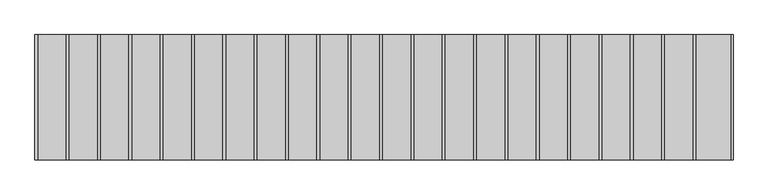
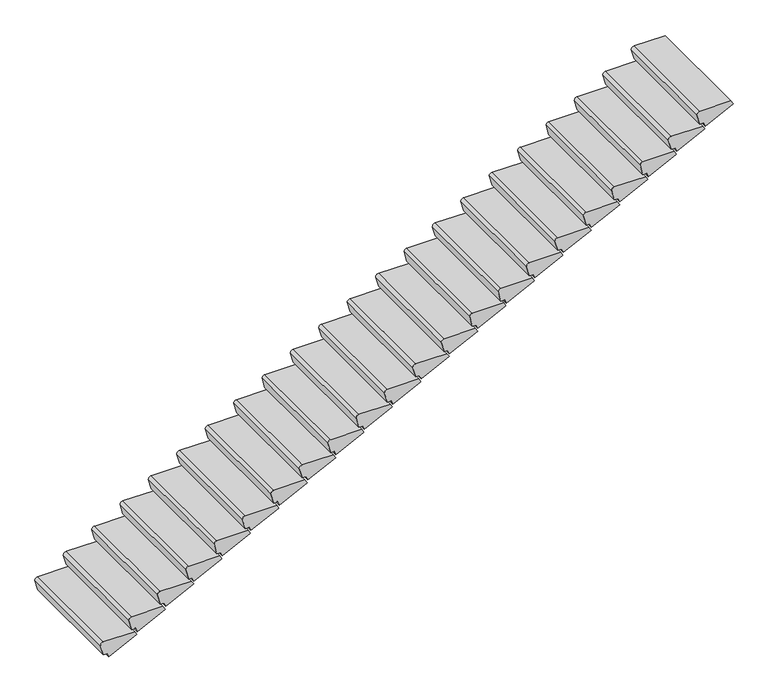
"""IFC4 building model written with IfcOpenShell, lengths in millimetres: stair flight geometry, АР_ГОСТ 8717.1-84_ЛС15."""

from ifc_helpers import new_model, si_unit, point, frame, frame_2d, origin, place, context, project, spatial, polyline, circle_curve, trimmed, segment, composite_curve, outline, extrude, source, transform, mapped, element, save


def stair_flight_9368ac00(model_context):
    return source(origin(), model_context, "Body", "SweptSolid", [
        extrude(outline(composite_curve([segment(polyline([(32.2727273, -20856.3232804), (32.2727273, -20816.3232804), (-9.7272727, -20799.3232804), (137.2727273, -20503.3216618), (177.2727273, -20526.3216618), (177.2727273, -20856.3232804)]), True, "CONTINUOUS"), segment(trimmed(circle_curve(frame_2d((147.2727273, -20856.3232804)), 30.0), [point((177.2727273, -20856.3232804))], [point((147.2727273, -20886.3232804))], False, "CARTESIAN"), True, "CONTINUOUS"), segment(polyline([(147.2727273, -20886.3232804), (32.2727273, -20856.3232804)]), True, "CONTINUOUS")], self_intersect=False)), frame((0.0, -7167.2365794, 0.0), z_axis=(0.0, 1.0, 0.0), x_axis=(0.0, 0.0, 1.0)), (0.0, 0.0, 1.0), 1200.0),
        extrude(outline(composite_curve([segment(polyline([(209.5454545, -20556.3232804), (209.5454545, -20516.3232804), (167.5454545, -20499.3232804), (314.5454545, -20203.3216618), (354.5454545, -20226.3216618), (354.5454545, -20556.3232804)]), True, "CONTINUOUS"), segment(trimmed(circle_curve(frame_2d((324.5454545, -20556.3232804)), 30.0), [point((354.5454545, -20556.3232804))], [point((324.5454545, -20586.3232804))], False, "CARTESIAN"), True, "CONTINUOUS"), segment(polyline([(324.5454545, -20586.3232804), (209.5454545, -20556.3232804)]), True, "CONTINUOUS")], self_intersect=False)), frame((0.0, -7167.2365794, 0.0), z_axis=(0.0, 1.0, 0.0), x_axis=(0.0, 0.0, 1.0)), (0.0, 0.0, 1.0), 1200.0),
        extrude(outline(composite_curve([segment(polyline([(386.8181818, -20256.3232804), (386.8181818, -20216.3232804), (344.8181818, -20199.3232804), (491.8181818, -19903.3216618), (531.8181818, -19926.3216618), (531.8181818, -20256.3232804)]), True, "CONTINUOUS"), segment(trimmed(circle_curve(frame_2d((501.8181818, -20256.3232804)), 30.0), [point((531.8181818, -20256.3232804))], [point((501.8181818, -20286.3232804))], False, "CARTESIAN"), True, "CONTINUOUS"), segment(polyline([(501.8181818, -20286.3232804), (386.8181818, -20256.3232804)]), True, "CONTINUOUS")], self_intersect=False)), frame((0.0, -7167.2365794, 0.0), z_axis=(0.0, 1.0, 0.0), x_axis=(0.0, 0.0, 1.0)), (0.0, 0.0, 1.0), 1200.0),
        extrude(outline(composite_curve([segment(polyline([(564.0909091, -19956.3232804), (564.0909091, -19916.3232804), (522.0909091, -19899.3232804), (669.0909091, -19603.3216618), (709.0909091, -19626.3216618), (709.0909091, -19956.3232804)]), True, "CONTINUOUS"), segment(trimmed(circle_curve(frame_2d((679.0909091, -19956.3232804)), 30.0), [point((709.0909091, -19956.3232804))], [point((679.0909091, -19986.3232804))], False, "CARTESIAN"), True, "CONTINUOUS"), segment(polyline([(679.0909091, -19986.3232804), (564.0909091, -19956.3232804)]), True, "CONTINUOUS")], self_intersect=False)), frame((0.0, -7167.2365794, 0.0), z_axis=(0.0, 1.0, 0.0), x_axis=(0.0, 0.0, 1.0)), (0.0, 0.0, 1.0), 1200.0),
        extrude(outline(composite_curve([segment(polyline([(741.3636364, -19656.3232804), (741.3636364, -19616.3232804), (699.3636364, -19599.3232804), (846.3636364, -19303.3216618), (886.3636364, -19326.3216618), (886.3636364, -19656.3232804)]), True, "CONTINUOUS"), segment(trimmed(circle_curve(frame_2d((856.3636364, -19656.3232804)), 30.0), [point((886.3636364, -19656.3232804))], [point((856.3636364, -19686.3232804))], False, "CARTESIAN"), True, "CONTINUOUS"), segment(polyline([(856.3636364, -19686.3232804), (741.3636364, -19656.3232804)]), True, "CONTINUOUS")], self_intersect=False)), frame((0.0, -7167.2365794, 0.0), z_axis=(0.0, 1.0, 0.0), x_axis=(0.0, 0.0, 1.0)), (0.0, 0.0, 1.0), 1200.0),
        extrude(outline(composite_curve([segment(polyline([(918.6363636, -19356.3232804), (918.6363636, -19316.3232804), (876.6363636, -19299.3232804), (1023.6363636, -19003.3216618), (1063.6363636, -19026.3216618), (1063.6363636, -19356.3232804)]), True, "CONTINUOUS"), segment(trimmed(circle_curve(frame_2d((1033.6363636, -19356.3232804)), 30.0), [point((1063.6363636, -19356.3232804))], [point((1033.6363636, -19386.3232804))], False, "CARTESIAN"), True, "CONTINUOUS"), segment(polyline([(1033.6363636, -19386.3232804), (918.6363636, -19356.3232804)]), True, "CONTINUOUS")], self_intersect=False)), frame((0.0, -7167.2365794, 0.0), z_axis=(0.0, 1.0, 0.0), x_axis=(0.0, 0.0, 1.0)), (0.0, 0.0, 1.0), 1200.0),
        extrude(outline(composite_curve([segment(polyline([(1095.9090909, -19056.3232804), (1095.9090909, -19016.3232804), (1053.9090909, -18999.3232804), (1200.9090909, -18703.3216618), (1240.9090909, -18726.3216618), (1240.9090909, -19056.3232804)]), True, "CONTINUOUS"), segment(trimmed(circle_curve(frame_2d((1210.9090909, -19056.3232804)), 30.0), [point((1240.9090909, -19056.3232804))], [point((1210.9090909, -19086.3232804))], False, "CARTESIAN"), True, "CONTINUOUS"), segment(polyline([(1210.9090909, -19086.3232804), (1095.9090909, -19056.3232804)]), True, "CONTINUOUS")], self_intersect=False)), frame((0.0, -7167.2365794, 0.0), z_axis=(0.0, 1.0, 0.0), x_axis=(0.0, 0.0, 1.0)), (0.0, 0.0, 1.0), 1200.0),
        extrude(outline(composite_curve([segment(polyline([(1273.1818182, -18756.3232804), (1273.1818182, -18716.3232804), (1231.1818182, -18699.3232804), (1378.1818182, -18403.3216618), (1418.1818182, -18426.3216618), (1418.1818182, -18756.3232804)]), True, "CONTINUOUS"), segment(trimmed(circle_curve(frame_2d((1388.1818182, -18756.3232804)), 30.0), [point((1418.1818182, -18756.3232804))], [point((1388.1818182, -18786.3232804))], False, "CARTESIAN"), True, "CONTINUOUS"), segment(polyline([(1388.1818182, -18786.3232804), (1273.1818182, -18756.3232804)]), True, "CONTINUOUS")], self_intersect=False)), frame((0.0, -7167.2365794, 0.0), z_axis=(0.0, 1.0, 0.0), x_axis=(0.0, 0.0, 1.0)), (0.0, 0.0, 1.0), 1200.0),
        extrude(outline(composite_curve([segment(polyline([(1450.4545455, -18456.3232804), (1450.4545455, -18416.3232804), (1408.4545455, -18399.3232804), (1555.4545455, -18103.3216618), (1595.4545455, -18126.3216618), (1595.4545455, -18456.3232804)]), True, "CONTINUOUS"), segment(trimmed(circle_curve(frame_2d((1565.4545455, -18456.3232804)), 30.0), [point((1595.4545455, -18456.3232804))], [point((1565.4545455, -18486.3232804))], False, "CARTESIAN"), True, "CONTINUOUS"), segment(polyline([(1565.4545455, -18486.3232804), (1450.4545455, -18456.3232804)]), True, "CONTINUOUS")], self_intersect=False)), frame((0.0, -7167.2365794, 0.0), z_axis=(0.0, 1.0, 0.0), x_axis=(0.0, 0.0, 1.0)), (0.0, 0.0, 1.0), 1200.0),
        extrude(outline(composite_curve([segment(polyline([(1627.7272727, -18156.3232804), (1627.7272727, -18116.3232804), (1585.7272727, -18099.3232804), (1732.7272727, -17803.3216618), (1772.7272727, -17826.3216618), (1772.7272727, -18156.3232804)]), True, "CONTINUOUS"), segment(trimmed(circle_curve(frame_2d((1742.7272727, -18156.3232804)), 30.0), [point((1772.7272727, -18156.3232804))], [point((1742.7272727, -18186.3232804))], False, "CARTESIAN"), True, "CONTINUOUS"), segment(polyline([(1742.7272727, -18186.3232804), (1627.7272727, -18156.3232804)]), True, "CONTINUOUS")], self_intersect=False)), frame((0.0, -7167.2365794, 0.0), z_axis=(0.0, 1.0, 0.0), x_axis=(0.0, 0.0, 1.0)), (0.0, 0.0, 1.0), 1200.0),
        extrude(outline(composite_curve([segment(polyline([(1805.0, -17856.3232804), (1805.0, -17816.3232804), (1763.0, -17799.3232804), (1910.0, -17503.3216618), (1950.0, -17526.3216618), (1950.0, -17856.3232804)]), True, "CONTINUOUS"), segment(trimmed(circle_curve(frame_2d((1920.0, -17856.3232804)), 30.0), [point((1950.0, -17856.3232804))], [point((1920.0, -17886.3232804))], False, "CARTESIAN"), True, "CONTINUOUS"), segment(polyline([(1920.0, -17886.3232804), (1805.0, -17856.3232804)]), True, "CONTINUOUS")], self_intersect=False)), frame((0.0, -7167.2365794, 0.0), z_axis=(0.0, 1.0, 0.0), x_axis=(0.0, 0.0, 1.0)), (0.0, 0.0, 1.0), 1200.0),
        extrude(outline(composite_curve([segment(polyline([(1982.2727273, -17556.3232804), (1982.2727273, -17516.3232804), (1940.2727273, -17499.3232804), (2087.2727273, -17203.3216618), (2127.2727273, -17226.3216618), (2127.2727273, -17556.3232804)]), True, "CONTINUOUS"), segment(trimmed(circle_curve(frame_2d((2097.2727273, -17556.3232804)), 30.0), [point((2127.2727273, -17556.3232804))], [point((2097.2727273, -17586.3232804))], False, "CARTESIAN"), True, "CONTINUOUS"), segment(polyline([(2097.2727273, -17586.3232804), (1982.2727273, -17556.3232804)]), True, "CONTINUOUS")], self_intersect=False)), frame((0.0, -7167.2365794, 0.0), z_axis=(0.0, 1.0, 0.0), x_axis=(0.0, 0.0, 1.0)), (0.0, 0.0, 1.0), 1200.0),
        extrude(outline(composite_curve([segment(polyline([(2159.5454545, -17256.3232804), (2159.5454545, -17216.3232804), (2117.5454545, -17199.3232804), (2264.5454545, -16903.3216618), (2304.5454545, -16926.3216618), (2304.5454545, -17256.3232804)]), True, "CONTINUOUS"), segment(trimmed(circle_curve(frame_2d((2274.5454545, -17256.3232804)), 30.0), [point((2304.5454545, -17256.3232804))], [point((2274.5454545, -17286.3232804))], False, "CARTESIAN"), True, "CONTINUOUS"), segment(polyline([(2274.5454545, -17286.3232804), (2159.5454545, -17256.3232804)]), True, "CONTINUOUS")], self_intersect=False)), frame((0.0, -7167.2365794, 0.0), z_axis=(0.0, 1.0, 0.0), x_axis=(0.0, 0.0, 1.0)), (0.0, 0.0, 1.0), 1200.0),
        extrude(outline(composite_curve([segment(polyline([(2336.8181818, -16956.3232804), (2336.8181818, -16916.3232804), (2294.8181818, -16899.3232804), (2441.8181818, -16603.3216618), (2481.8181818, -16626.3216618), (2481.8181818, -16956.3232804)]), True, "CONTINUOUS"), segment(trimmed(circle_curve(frame_2d((2451.8181818, -16956.3232804)), 30.0), [point((2481.8181818, -16956.3232804))], [point((2451.8181818, -16986.3232804))], False, "CARTESIAN"), True, "CONTINUOUS"), segment(polyline([(2451.8181818, -16986.3232804), (2336.8181818, -16956.3232804)]), True, "CONTINUOUS")], self_intersect=False)), frame((0.0, -7167.2365794, 0.0), z_axis=(0.0, 1.0, 0.0), x_axis=(0.0, 0.0, 1.0)), (0.0, 0.0, 1.0), 1200.0),
        extrude(outline(composite_curve([segment(polyline([(2514.0909091, -16656.3232804), (2514.0909091, -16616.3232804), (2472.0909091, -16599.3232804), (2619.0909091, -16303.3216618), (2659.0909091, -16326.3216618), (2659.0909091, -16656.3232804)]), True, "CONTINUOUS"), segment(trimmed(circle_curve(frame_2d((2629.0909091, -16656.3232804)), 30.0), [point((2659.0909091, -16656.3232804))], [point((2629.0909091, -16686.3232804))], False, "CARTESIAN"), True, "CONTINUOUS"), segment(polyline([(2629.0909091, -16686.3232804), (2514.0909091, -16656.3232804)]), True, "CONTINUOUS")], self_intersect=False)), frame((0.0, -7167.2365794, 0.0), z_axis=(0.0, 1.0, 0.0), x_axis=(0.0, 0.0, 1.0)), (0.0, 0.0, 1.0), 1200.0),
        extrude(outline(composite_curve([segment(polyline([(2691.3636364, -16356.3232804), (2691.3636364, -16316.3232804), (2649.3636364, -16299.3232804), (2796.3636364, -16003.3216618), (2836.3636364, -16026.3216618), (2836.3636364, -16356.3232804)]), True, "CONTINUOUS"), segment(trimmed(circle_curve(frame_2d((2806.3636364, -16356.3232804)), 30.0), [point((2836.3636364, -16356.3232804))], [point((2806.3636364, -16386.3232804))], False, "CARTESIAN"), True, "CONTINUOUS"), segment(polyline([(2806.3636364, -16386.3232804), (2691.3636364, -16356.3232804)]), True, "CONTINUOUS")], self_intersect=False)), frame((0.0, -7167.2365794, 0.0), z_axis=(0.0, 1.0, 0.0), x_axis=(0.0, 0.0, 1.0)), (0.0, 0.0, 1.0), 1200.0),
        extrude(outline(composite_curve([segment(polyline([(2868.6363636, -16056.3232804), (2868.6363636, -16016.3232804), (2826.6363636, -15999.3232804), (2973.6363636, -15703.3216618), (3013.6363636, -15726.3216618), (3013.6363636, -16056.3232804)]), True, "CONTINUOUS"), segment(trimmed(circle_curve(frame_2d((2983.6363636, -16056.3232804)), 30.0), [point((3013.6363636, -16056.3232804))], [point((2983.6363636, -16086.3232804))], False, "CARTESIAN"), True, "CONTINUOUS"), segment(polyline([(2983.6363636, -16086.3232804), (2868.6363636, -16056.3232804)]), True, "CONTINUOUS")], self_intersect=False)), frame((0.0, -7167.2365794, 0.0), z_axis=(0.0, 1.0, 0.0), x_axis=(0.0, 0.0, 1.0)), (0.0, 0.0, 1.0), 1200.0),
        extrude(outline(composite_curve([segment(polyline([(3045.9090909, -15756.3232804), (3045.9090909, -15716.3232804), (3003.9090909, -15699.3232804), (3150.9090909, -15403.3216618), (3190.9090909, -15426.3216618), (3190.9090909, -15756.3232804)]), True, "CONTINUOUS"), segment(trimmed(circle_curve(frame_2d((3160.9090909, -15756.3232804)), 30.0), [point((3190.9090909, -15756.3232804))], [point((3160.9090909, -15786.3232804))], False, "CARTESIAN"), True, "CONTINUOUS"), segment(polyline([(3160.9090909, -15786.3232804), (3045.9090909, -15756.3232804)]), True, "CONTINUOUS")], self_intersect=False)), frame((0.0, -7167.2365794, 0.0), z_axis=(0.0, 1.0, 0.0), x_axis=(0.0, 0.0, 1.0)), (0.0, 0.0, 1.0), 1200.0),
        extrude(outline(composite_curve([segment(polyline([(3223.1818182, -15456.3232804), (3223.1818182, -15416.3232804), (3181.1818182, -15399.3232804), (3328.1818182, -15103.3216618), (3368.1818182, -15126.3216618), (3368.1818182, -15456.3232804)]), True, "CONTINUOUS"), segment(trimmed(circle_curve(frame_2d((3338.1818182, -15456.3232804)), 30.0), [point((3368.1818182, -15456.3232804))], [point((3338.1818182, -15486.3232804))], False, "CARTESIAN"), True, "CONTINUOUS"), segment(polyline([(3338.1818182, -15486.3232804), (3223.1818182, -15456.3232804)]), True, "CONTINUOUS")], self_intersect=False)), frame((0.0, -7167.2365794, 0.0), z_axis=(0.0, 1.0, 0.0), x_axis=(0.0, 0.0, 1.0)), (0.0, 0.0, 1.0), 1200.0),
        extrude(outline(composite_curve([segment(polyline([(3400.4545455, -15156.3232804), (3400.4545455, -15116.3232804), (3358.4545455, -15099.3232804), (3505.4545455, -14803.3216618), (3545.4545455, -14826.3216618), (3545.4545455, -15156.3232804)]), True, "CONTINUOUS"), segment(trimmed(circle_curve(frame_2d((3515.4545455, -15156.3232804)), 30.0), [point((3545.4545455, -15156.3232804))], [point((3515.4545455, -15186.3232804))], False, "CARTESIAN"), True, "CONTINUOUS"), segment(polyline([(3515.4545455, -15186.3232804), (3400.4545455, -15156.3232804)]), True, "CONTINUOUS")], self_intersect=False)), frame((0.0, -7167.2365794, 0.0), z_axis=(0.0, 1.0, 0.0), x_axis=(0.0, 0.0, 1.0)), (0.0, 0.0, 1.0), 1200.0),
        extrude(outline(composite_curve([segment(polyline([(3577.7272727, -14856.3232804), (3577.7272727, -14816.3232804), (3535.7272727, -14799.3232804), (3682.7272727, -14503.3216618), (3722.7272727, -14526.3216618), (3722.7272727, -14856.3232804)]), True, "CONTINUOUS"), segment(trimmed(circle_curve(frame_2d((3692.7272727, -14856.3232804)), 30.0), [point((3722.7272727, -14856.3232804))], [point((3692.7272727, -14886.3232804))], False, "CARTESIAN"), True, "CONTINUOUS"), segment(polyline([(3692.7272727, -14886.3232804), (3577.7272727, -14856.3232804)]), True, "CONTINUOUS")], self_intersect=False)), frame((0.0, -7167.2365794, 0.0), z_axis=(0.0, 1.0, 0.0), x_axis=(0.0, 0.0, 1.0)), (0.0, 0.0, 1.0), 1200.0),
        extrude(outline(composite_curve([segment(polyline([(3755.0, -14556.3232804), (3755.0, -14516.3232804), (3713.0, -14499.3232804), (3860.0, -14203.3216618), (3900.0, -14226.3216618), (3900.0, -14556.3232804)]), True, "CONTINUOUS"), segment(trimmed(circle_curve(frame_2d((3870.0, -14556.3232804)), 30.0), [point((3900.0, -14556.3232804))], [point((3870.0, -14586.3232804))], False, "CARTESIAN"), True, "CONTINUOUS"), segment(polyline([(3870.0, -14586.3232804), (3755.0, -14556.3232804)]), True, "CONTINUOUS")], self_intersect=False)), frame((0.0, -7167.2365794, 0.0), z_axis=(0.0, 1.0, 0.0), x_axis=(0.0, 0.0, 1.0)), (0.0, 0.0, 1.0), 1200.0),
    ])


if __name__ == "__main__":
    model = new_model("IFC4")
    model_context = context("Model", 3, world=origin())
    ifc_project = project(units=[si_unit("LENGTHUNIT", "METRE", prefix="MILLI")], contexts=[model_context])
    site = spatial("IfcSite", under=ifc_project)
    building = spatial("IfcBuilding", under=site)
    placement = place(None, origin())
    stair_flight_shape = stair_flight_9368ac00(model_context)
    element("IfcStairFlight", 1, ObjectType="АР_ГОСТ 8717.1-84_ЛС15", at=placement, inside=building, context=model_context, shape_type="MappedRepresentation", body=[
        mapped(stair_flight_shape, transform((0.0, 0.0, 0.0), x_axis=(1.0, 0.0, 0.0), y_axis=(0.0, 1.0, 0.0), z_axis=(0.0, 0.0, 1.0))),
    ])
    save(model, "model.ifc")
